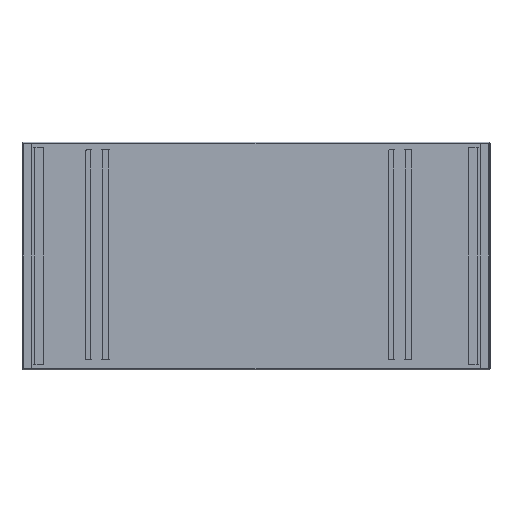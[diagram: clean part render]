
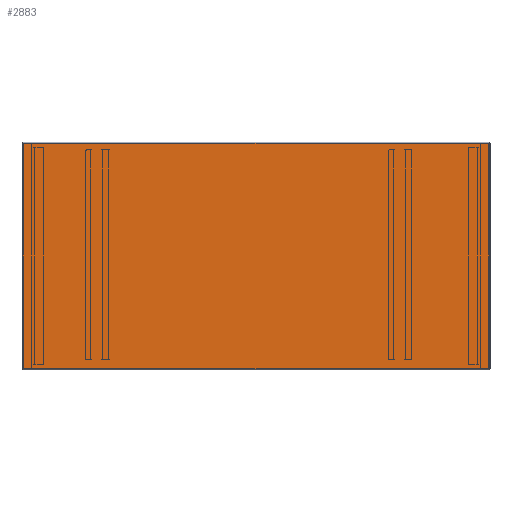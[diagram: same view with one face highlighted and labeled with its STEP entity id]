
A CAD part, left-side view. The second image highlights one B-rep face of the part: STEP entity #2883.
In plain terms, the highlighted planar face has unit normal (-1, 0, 0).
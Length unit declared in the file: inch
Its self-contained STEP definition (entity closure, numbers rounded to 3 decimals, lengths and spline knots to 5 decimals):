
#290=DIRECTION('',(0.,1.,0.));
#291=VECTOR('',#290,51.25);
#292=CARTESIAN_POINT('',(-0.06,-25.625,-12.371));
#293=LINE('',#292,#291);
#320=DIRECTION('',(0.,-1.,0.));
#321=VECTOR('',#320,51.25);
#322=CARTESIAN_POINT('',(-0.06,25.625,12.371));
#323=LINE('',#322,#321);
#1099=DIRECTION('',(0.,0.,-1.));
#1100=VECTOR('',#1099,24.742);
#1101=CARTESIAN_POINT('',(-0.06,25.625,12.371));
#1102=LINE('',#1101,#1100);
#1103=DIRECTION('',(0.,0.,1.));
#1104=VECTOR('',#1103,24.742);
#1105=CARTESIAN_POINT('',(-0.06,-25.625,-12.371));
#1106=LINE('',#1105,#1104);
#1319=CARTESIAN_POINT('',(-0.06,25.625,12.371));
#1320=CARTESIAN_POINT('',(-0.06,25.625,-12.371));
#1321=VERTEX_POINT('',#1319);
#1322=VERTEX_POINT('',#1320);
#1323=CARTESIAN_POINT('',(-0.06,-25.625,-12.371));
#1324=CARTESIAN_POINT('',(-0.06,-25.625,12.371));
#1325=VERTEX_POINT('',#1323);
#1326=VERTEX_POINT('',#1324);
#2872=CARTESIAN_POINT('',(-0.06,0.,0.));
#2873=DIRECTION('',(-1.,0.,0.));
#2874=DIRECTION('',(0.,0.,1.));
#2875=AXIS2_PLACEMENT_3D('',#2872,#2873,#2874);
#2876=PLANE('',#2875);
#2877=ORIENTED_EDGE('',*,*,#1772,.T.);
#2878=ORIENTED_EDGE('',*,*,#1800,.F.);
#2879=ORIENTED_EDGE('',*,*,#1830,.T.);
#2880=ORIENTED_EDGE('',*,*,#2386,.F.);
#2881=EDGE_LOOP('',(#2877,#2878,#2879,#2880));
#2882=FACE_OUTER_BOUND('',#2881,.F.);
#2883=ADVANCED_FACE('',(#2882),#2876,.T.);
#1772=EDGE_CURVE('',#1325,#1322,#293,.T.);
#1800=EDGE_CURVE('',#1321,#1322,#1102,.T.);
#1830=EDGE_CURVE('',#1321,#1326,#323,.T.);
#2386=EDGE_CURVE('',#1325,#1326,#1106,.T.);
